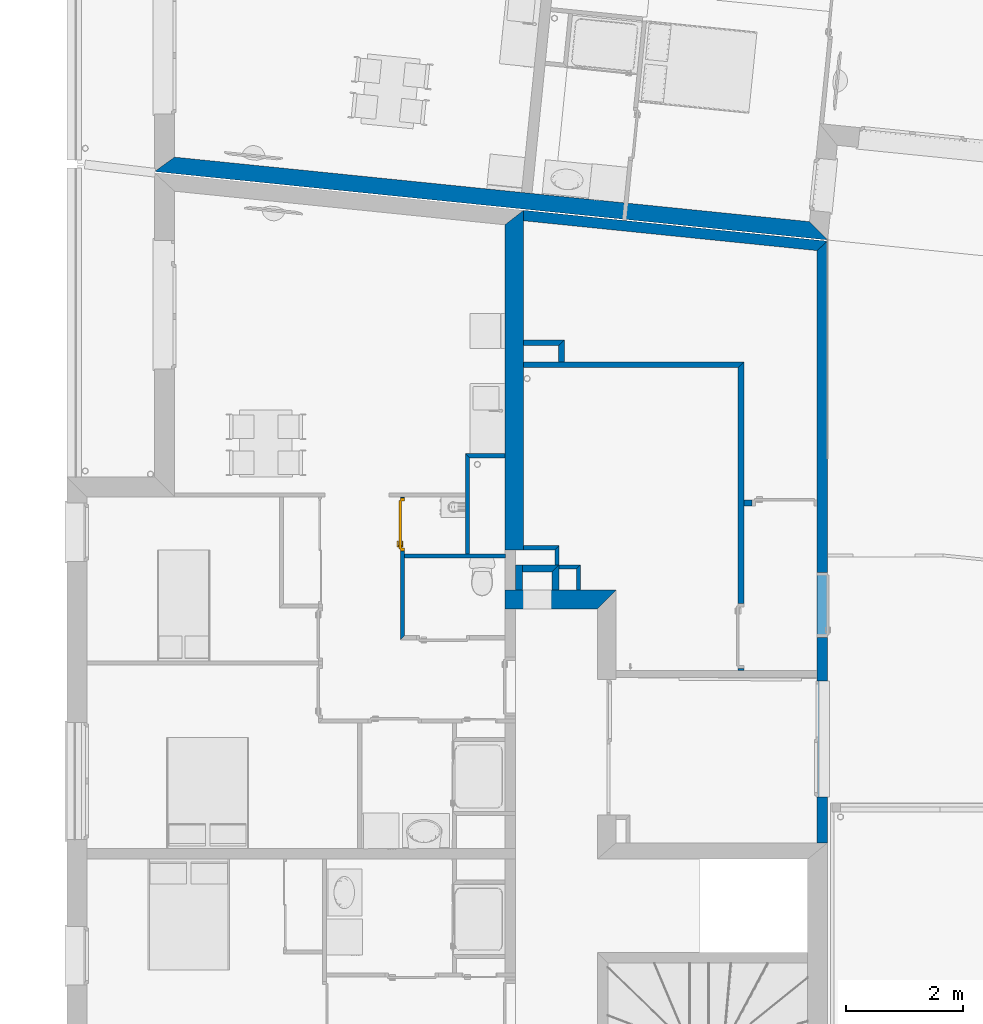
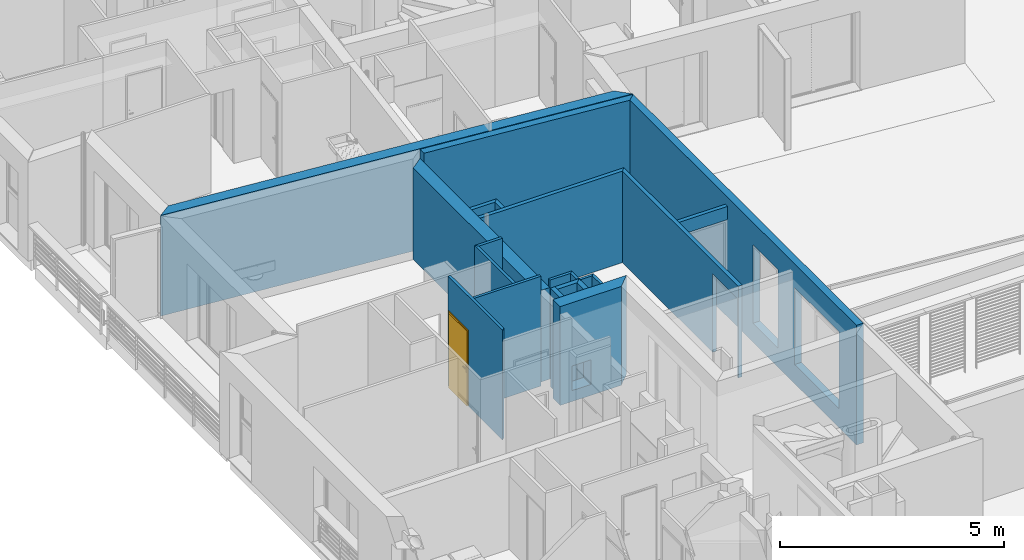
# One storey, part 55 of 171: 21 walls, 1 door, 9 openings.
"""IFC2X3 building model written with IfcOpenShell, lengths in millimetres."""

from ifc_helpers import new_model, entity, si_unit, converted_unit, derived_unit, money_unit, direction, frame, origin_with_axes, origin_2d_with_axis, place, context, subcontext, project, spatial, polyline, rectangle, outline, extrude, faceted_brep, source, transform, mapped, material, layer, layer_set, layer_usage, type_object, element, fill, save


model = new_model("IFC2X3")

# Units and contexts
model_context = context("Model", 3, precision=0.01, world=origin_with_axes(), true_north=direction((0.0, 1.0)))
body_context = subcontext(model_context, "Body", "Model", "MODEL_VIEW")
ifc_project = project(units=[si_unit("LENGTHUNIT", "METRE", prefix="MILLI"), si_unit("AREAUNIT", "SQUARE_METRE"), si_unit("VOLUMEUNIT", "CUBIC_METRE"), converted_unit("PLANEANGLEUNIT", "DEGREE", entity("IfcPlaneAngleMeasure", 0.0174532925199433), si_unit("PLANEANGLEUNIT", "RADIAN"), dimensions=[0, 0, 0, 0, 0, 0, 0]), money_unit("USD"), converted_unit("TIMEUNIT", "Year", entity("IfcTimeMeasure", 31557600.0), si_unit("TIMEUNIT", "SECOND"), dimensions=[0, 0, 1, 0, 0, 0, 0]), si_unit("MASSUNIT", "GRAM", prefix="KILO"), si_unit("THERMODYNAMICTEMPERATUREUNIT", "DEGREE_CELSIUS"), si_unit("LUMINOUSINTENSITYUNIT", "LUMEN"), si_unit("ENERGYUNIT", "JOULE", prefix="MEGA"), derived_unit("THERMALCONDUCTANCEUNIT", [(si_unit("POWERUNIT", "WATT"), 1), (si_unit("LENGTHUNIT", "METRE"), -1), (si_unit("THERMODYNAMICTEMPERATUREUNIT", "KELVIN"), -1)]), derived_unit("SPECIFICHEATCAPACITYUNIT", [(si_unit("ENERGYUNIT", "JOULE"), 1), (si_unit("MASSUNIT", "GRAM", prefix="KILO"), -1), (si_unit("THERMODYNAMICTEMPERATUREUNIT", "KELVIN"), -1)]), derived_unit("MASSDENSITYUNIT", [(si_unit("MASSUNIT", "GRAM", prefix="KILO"), 1), (si_unit("VOLUMEUNIT", "CUBIC_METRE"), -1)])], contexts=[model_context])

# Site, building, storey
site_placement = place(None, origin_with_axes())
site = spatial("IfcSite", under=ifc_project, at=site_placement, Name="Site", CompositionType="ELEMENT")
building_placement = place(site_placement, origin_with_axes())
building = spatial("IfcBuilding", under=site, at=building_placement, Name="Bâtiment", CompositionType="ELEMENT")
storey_placement = place(building_placement, frame((0.0, 0.0, 3000.0), z_axis=(0.0, 0.0, 1.0), x_axis=(1.0, 0.0, 0.0)))
storey = spatial("IfcBuildingStorey", under=building, at=storey_placement, Name="rdc", CompositionType="ELEMENT", Elevation=3000.0)

# Wall
ifc_material_1 = material(Name="Brique 1 268964100")
ifc_layer_1 = layer(ifc_material_1, 100.0, ventilated="UNKNOWN")
ifc_layer_set_1 = layer_set([ifc_layer_1], Name="Cloison 100 gaine")
ifc_layer_usage_1 = layer_usage(ifc_layer_set_1, "AXIS2", "POSITIVE", 0.0)
wall_type_1 = type_object("IfcWallType", Name="Cloison 100 gaine 100", PredefinedType="NOTDEFINED")
wall_1_placement = place(storey_placement, frame((2225048.648795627, -623821.40736128, 0.0), z_axis=(0.0, 0.0, 1.0), x_axis=(0.0, -1.0, 0.0)))
element("IfcWallStandardCase", 1, at=wall_1_placement, inside=storey, type_object=wall_type_1, material=ifc_layer_usage_1, Name="Mur-133", context=body_context, shape_type="SweptSolid", body=[
    extrude(outline(polyline([(0.0, 0.0), (276.7742835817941, 0.0), (276.7742835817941, 100.0000000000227), (-100.0000000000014, 100.0000000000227), (0.0, 0.0)])), origin_with_axes(), (0.0, 0.0, 1.0), 2500.0),
])

# Wall, opening
ifc_layer_usage_2 = layer_usage(ifc_layer_set_1, "AXIS2", "POSITIVE", 0.0)
wall_2_placement = place(storey_placement, frame((2228223.476037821, -629505.4724459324, 0.0), z_axis=(0.0, 0.0, 1.0), x_axis=(0.0, 1.0, 0.0)))
wall_2 = element("IfcWallStandardCase", 2, at=wall_2_placement, inside=storey, type_object=wall_type_1, material=ifc_layer_usage_2, Name="Mur-133", context=body_context, shape_type="SweptSolid", body=[
    extrude(outline(polyline([(119.9999999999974, 0.0), (5407.290801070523, 0.0), (5307.290801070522, 100.0000000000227), (119.9999999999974, 100.0000000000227), (119.9999999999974, 0.0)])), origin_with_axes(), (0.0, 0.0, 1.0), 2500.0),
])
opening_1_placement = place(wall_2_placement, frame((711.860139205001, 2.273736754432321e-10, 0.0), z_axis=(0.0, 0.0, 1.0), x_axis=(1.0, 0.0, 0.0)))
element("IfcOpeningElement", 3, at=opening_1_placement, cuts=wall_2, Name="Por-301", context=body_context, shape_type="SweptSolid", body=[
    extrude(rectangle(XDim=1109.999997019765, YDim=2140.0, at=origin_2d_with_axis()), frame((1.490114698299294e-06, -100.0000000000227, 1070.0), z_axis=(0.0, -1.0, 0.0), x_axis=(-1.0, 0.0, 0.0)), (0.0, 0.0, -1.0), 200.0),
])

# Wall
ifc_layer_usage_3 = layer_usage(ifc_layer_set_1, "AXIS2", "POSITIVE", 0.0)
wall_3_placement = place(storey_placement, frame((2224132.342054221, -624198.1816448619, 0.0), z_axis=(0.0, 0.0, 1.0), x_axis=(1.0, 0.0, 0.0)))
element("IfcWallStandardCase", 4, at=wall_3_placement, inside=storey, type_object=wall_type_1, material=ifc_layer_usage_3, Name="Mur-133", context=body_context, shape_type="SweptSolid", body=[
    extrude(outline(polyline([(319.9913600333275, 0.0), (3991.133983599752, 0.0), (4091.133983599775, 100.0000000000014), (319.990804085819, 100.0000000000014), (319.9913600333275, 0.0)])), origin_with_axes(), (0.0, 0.0, 1.0), 2500.0),
])

# Wall, opening
ifc_layer_usage_4 = layer_usage(ifc_layer_set_1, "AXIS2", "POSITIVE", 0.0)
wall_4_placement = place(storey_placement, frame((2228223.476037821, -626562.99755707, 0.0), z_axis=(0.0, 0.0, 1.0), x_axis=(1.0, 0.0, 0.0)))
wall_4 = element("IfcWallStandardCase", 5, at=wall_4_placement, inside=storey, type_object=wall_type_1, material=ifc_layer_usage_4, Name="Mur-133", context=body_context, shape_type="SweptSolid", body=[
    extrude(outline(polyline([(0.0, 0.0), (1250.000000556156, 0.0), (1250.00000057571, 100.0000000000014), (0.0, 100.0000000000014), (0.0, 0.0)])), origin_with_axes(), (0.0, 0.0, 1.0), 2500.0),
])
opening_2_placement = place(wall_4_placement, frame((695.0000004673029, 0.0, 0.0), z_axis=(0.0, 0.0, 1.0), x_axis=(1.0, 0.0, 0.0)))
element("IfcOpeningElement", 6, at=opening_2_placement, cuts=wall_4, Name="Por-301", context=body_context, shape_type="SweptSolid", body=[
    extrude(rectangle(XDim=1109.999997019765, YDim=2140.0, at=origin_2d_with_axis()), frame((-1.490093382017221e-06, -100.0000000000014, 1070.0), z_axis=(0.0, 1.0, 0.0), x_axis=(1.0, 0.0, 0.0)), (0.0, 0.0, 1.0), 200.0),
])

# Wall, openings
ifc_layer_usage_5 = layer_usage(ifc_layer_set_1, "AXIS2", "POSITIVE", 0.0)
wall_5_placement = place(storey_placement, frame((2224132.331319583, -623821.40736128, 0.0), z_axis=(0.0, 0.0, 1.0), x_axis=(1.0, 0.0, 0.0)))
wall_5 = element("IfcWallStandardCase", 7, at=wall_5_placement, inside=storey, type_object=wall_type_1, material=ifc_layer_usage_5, Name="Mur-133", context=body_context, shape_type="SweptSolid", body=[
    extrude(outline(polyline([(320.0000000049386, 0.0), (916.3174760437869, 0.0), (1016.31747604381, 100.0000000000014), (319.9994440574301, 100.0000000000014), (320.0000000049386, 0.0)])), origin_with_axes(), (0.0, 0.0, 1.0), 2500.0),
])
opening_3_placement = place(wall_5_placement, frame((644.7914985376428, 0.0, 200.0000000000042), z_axis=(0.0, 0.0, 1.0), x_axis=(1.0, 0.0, 0.0)))
element("IfcOpeningElement", 8, at=opening_3_placement, cuts=wall_5, Name="Fen-212", context=body_context, shape_type="SweptSolid", body=[
    extrude(rectangle(XDim=210.0000000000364, YDim=210.0, at=origin_2d_with_axis()), frame((0.0, -189.9999999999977, 105.0), z_axis=(0.0, -1.0, 0.0), x_axis=(1.0, 0.0, 0.0)), (0.0, 0.0, -1.0), 390.0),
    extrude(rectangle(XDim=210.0000000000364, YDim=210.0, at=origin_2d_with_axis()), frame((0.0, -189.9999999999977, 105.0), z_axis=(0.0, 1.0, 0.0), x_axis=(1.0, 0.0, 0.0)), (0.0, 0.0, -1.0), 390.0),
])
opening_4_placement = place(wall_5_placement, frame((644.7914985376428, 0.0, 200.0000000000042), z_axis=(0.0, 0.0, 1.0), x_axis=(1.0, 0.0, 0.0)))
element("IfcOpeningElement", 9, at=opening_4_placement, cuts=wall_5, Name="Fen-213", context=body_context, shape_type="SweptSolid", body=[
    extrude(rectangle(XDim=210.0000000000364, YDim=210.0, at=origin_2d_with_axis()), frame((0.0, 289.9999999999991, 105.0), z_axis=(0.0, 1.0, 0.0), x_axis=(1.0, 0.0, 0.0)), (0.0, 0.0, -1.0), 390.0),
    extrude(rectangle(XDim=210.0000000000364, YDim=210.0, at=origin_2d_with_axis()), frame((0.0, 289.9999999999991, 105.0), z_axis=(0.0, -1.0, 0.0), x_axis=(1.0, 0.0, 0.0)), (0.0, 0.0, -1.0), 390.0),
])
opening_5_placement = place(wall_5_placement, frame((644.7914985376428, 0.0, 200.0000000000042), z_axis=(0.0, 0.0, 1.0), x_axis=(1.0, 0.0, 0.0)))
element("IfcOpeningElement", 10, at=opening_5_placement, cuts=wall_5, Name="Fen-214", context=body_context, shape_type="SweptSolid", body=[
    extrude(rectangle(XDim=210.0000000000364, YDim=210.0, at=origin_2d_with_axis()), frame((0.0, 289.9999999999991, 105.0), z_axis=(0.0, 1.0, 0.0), x_axis=(1.0, 0.0, 0.0)), (0.0, 0.0, -1.0), 390.0),
    extrude(rectangle(XDim=210.0000000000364, YDim=210.0, at=origin_2d_with_axis()), frame((0.0, 289.9999999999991, 105.0), z_axis=(0.0, -1.0, 0.0), x_axis=(1.0, 0.0, 0.0)), (0.0, 0.0, -1.0), 390.0),
])

# Wall, opening, door
ifc_material_2 = material(Name="Hachure solide 268963992")
ifc_layer_2 = layer(ifc_material_2, 70.0, ventilated="UNKNOWN")
ifc_layer_set_2 = layer_set([ifc_layer_2], Name="Cloison 70 0826278243")
ifc_layer_usage_6 = layer_usage(ifc_layer_set_2, "AXIS2", "NEGATIVE", 70.0)
wall_type_2 = type_object("IfcWallType", Name="Cloison 70 0826278243 70", PredefinedType="NOTDEFINED")
wall_6_placement = place(storey_placement, frame((2222342.320325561, -626341.213752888, 0.0), z_axis=(0.0, 0.0, 1.0), x_axis=(-7.302674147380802e-07, -0.9999999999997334, 0.0)))
wall_6 = element("IfcWallStandardCase", 11, at=wall_6_placement, inside=storey, type_object=wall_type_2, material=ifc_layer_usage_6, Name="Mur-149", context=body_context, shape_type="SweptSolid", body=[
    extrude(outline(polyline([(69.99996958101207, 0.0), (2516.822249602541, 0.0), (2446.822198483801, 69.99999999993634), (69.99990594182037, 70.00000000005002), (69.99996958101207, 0.0)])), origin_with_axes(), (0.0, 0.0, 1.0), 3000.0),
])
opening_6_placement = place(wall_6_placement, frame((543.3214363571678, 3.410605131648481e-10, 0.0), z_axis=(0.0, 0.0, 1.0), x_axis=(1.0, 0.0, 0.0)))
opening_6 = element("IfcOpeningElement", 12, at=opening_6_placement, cuts=wall_6, Name="Por-278", context=body_context, shape_type="SweptSolid", body=[
    extrude(rectangle(XDim=910.0, YDim=2080.0, at=origin_2d_with_axis()), frame((0.0, 69.99999999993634, 1040.0), z_axis=(0.0, -1.0, 0.0), x_axis=(-1.0, 0.0, 0.0)), (0.0, 0.0, 1.0), 140.0),
])
door_style = type_object("IfcDoorStyle", Name="Porte_1v", ConstructionType="NOTDEFINED", OperationType="NOTDEFINED", ParameterTakesPrecedence=False, Sizeable=False)
shared_shape = source(origin_with_axes(), body_context, "Body", "Brep", [
    faceted_brep([(454.9999999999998, 0.0, 0.0), (414.9999999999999, 0.0, 0.0), (414.9999999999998, 0.0, 2040.0), (-414.9999999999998, 0.0, 2040.0), (-414.9999999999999, 0.0, 0.0), (-454.9999999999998, 0.0, 0.0), (-454.9999999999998, 0.0, 2080.0), (454.9999999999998, 0.0, 2080.0), (454.9999999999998, -69.99999999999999, 0.0), (399.9999999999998, -69.99999999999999, 0.0), (399.9999999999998, -15.0, 0.0), (414.9999999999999, -15.0, 0.0), (414.9999999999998, -15.0, 2040.0), (-414.9999999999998, -15.0, 2040.0), (-414.9999999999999, -15.0, 0.0), (-399.9999999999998, -15.0, 0.0), (-399.9999999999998, -69.99999999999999, 0.0), (-454.9999999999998, -69.99999999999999, 0.0), (-454.9999999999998, -69.99999999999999, 2080.0), (454.9999999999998, -69.99999999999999, 2080.0), (-399.9999999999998, -69.99999999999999, 2025.0), (399.9999999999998, -69.99999999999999, 2025.0), (399.9999999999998, -15.0, 2025.0), (-399.9999999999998, -15.0, 2025.0)], [[[0, 1, 2, 3, 4, 5, 6, 7]], [[0, 8, 9, 10, 11, 1]], [[1, 11, 12, 2]], [[2, 12, 13, 3]], [[3, 13, 14, 4]], [[5, 4, 14, 15, 16, 17]], [[18, 6, 5, 17]], [[19, 7, 6, 18]], [[8, 0, 7, 19]], [[9, 8, 19, 18, 17, 16, 20, 21]], [[10, 9, 21, 22]], [[11, 10, 22, 23, 15, 14, 13, 12]], [[23, 20, 16, 15]], [[22, 21, 20, 23]]]),
    faceted_brep([(-349.9999999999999, -15.0, 900.0), (-389.9999999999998, -15.0, 900.0), (-389.9999999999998, -15.0, 1100.0), (-349.9999999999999, -15.0, 1100.0), (-349.9999999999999, -24.99999999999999, 900.0), (-389.9999999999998, -24.99999999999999, 900.0), (-389.9999999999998, -24.99999999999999, 1100.0), (-349.9999999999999, -24.99999999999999, 1100.0)], [[[0, 1, 2, 3]], [[1, 0, 4, 5]], [[2, 1, 5, 6]], [[3, 2, 6, 7]], [[0, 3, 7, 4]], [[5, 4, 7, 6]]]),
    faceted_brep([(-279.9999999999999, -24.99999999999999, 1000.0), (-379.9999999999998, -24.99999999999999, 1000.0), (-379.9999999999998, -24.99999999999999, 1020.0), (-279.9999999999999, -24.99999999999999, 1020.0), (-279.9999999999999, -44.99999999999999, 1000.0), (-379.9999999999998, -44.99999999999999, 1000.0), (-379.9999999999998, -44.99999999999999, 1020.0), (-279.9999999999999, -44.99999999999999, 1020.0)], [[[0, 1, 2, 3]], [[1, 0, 4, 5]], [[2, 1, 5, 6]], [[3, 2, 6, 7]], [[0, 3, 7, 4]], [[5, 4, 7, 6]]]),
    faceted_brep([(-349.9999999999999, 34.99999999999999, 900.0), (-389.9999999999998, 34.99999999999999, 900.0), (-389.9999999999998, 34.99999999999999, 1100.0), (-349.9999999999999, 34.99999999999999, 1100.0), (-349.9999999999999, 24.99999999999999, 900.0), (-389.9999999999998, 24.99999999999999, 900.0), (-389.9999999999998, 24.99999999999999, 1100.0), (-349.9999999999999, 24.99999999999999, 1100.0)], [[[0, 1, 2, 3]], [[1, 0, 4, 5]], [[2, 1, 5, 6]], [[3, 2, 6, 7]], [[0, 3, 7, 4]], [[5, 4, 7, 6]]]),
    faceted_brep([(-279.9999999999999, 54.99999999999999, 1000.0), (-379.9999999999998, 54.99999999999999, 1000.0), (-379.9999999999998, 54.99999999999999, 1020.0), (-279.9999999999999, 54.99999999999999, 1020.0), (-279.9999999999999, 34.99999999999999, 1000.0), (-379.9999999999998, 34.99999999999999, 1000.0), (-379.9999999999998, 34.99999999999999, 1020.0), (-279.9999999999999, 34.99999999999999, 1020.0)], [[[0, 1, 2, 3]], [[1, 0, 4, 5]], [[2, 1, 5, 6]], [[3, 2, 6, 7]], [[0, 3, 7, 4]], [[5, 4, 7, 6]]]),
    faceted_brep([(-414.9999999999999, 24.99999999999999, 0.0), (414.9999999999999, 24.99999999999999, 0.0), (414.9999999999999, -15.0, 0.0), (-414.9999999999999, -15.0, 0.0), (-414.9999999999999, 24.99999999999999, 2040.0), (414.9999999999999, 24.99999999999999, 2040.0), (414.9999999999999, -15.0, 2040.0), (-414.9999999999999, -15.0, 2040.0)], [[[0, 1, 2, 3]], [[0, 4, 5, 1]], [[1, 5, 6, 2]], [[3, 2, 6, 7]], [[4, 0, 3, 7]], [[5, 4, 7, 6]]]),
])
door_placement = place(opening_6_placement, frame((414.9999999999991, 0.0, 0.0), z_axis=(0.0, 0.0, 1.0), x_axis=(-1.0, 0.0, 0.0)))
door = element("IfcDoor", 13, at=door_placement, inside=storey, type_object=door_style, Name="Por-278", OverallHeight=2040.0, OverallWidth=830.0, context=body_context, shape_type="MappedRepresentation", body=[
    mapped(shared_shape, transform((414.9999999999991, -1.13686837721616e-10, 0.0))),
])
fill(opening_6, door)

# Walls
ifc_layer_usage_7 = layer_usage(ifc_layer_set_2, "AXIS2", "POSITIVE", 0.0)
wall_7_placement = place(storey_placement, frame((2224132.341603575, -625671.2209312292, 0.0), z_axis=(0.0, 0.0, 1.0), x_axis=(-0.9999999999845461, -5.55947921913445e-06, 0.0)))
element("IfcWallStandardCase", 14, at=wall_7_placement, inside=storey, type_object=wall_type_2, material=ifc_layer_usage_7, Name="Mur-149", context=body_context, shape_type="SweptSolid", body=[
    extrude(outline(polyline([(2.273736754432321e-10, 0.0), (675.8614351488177, 0.0), (605.8618243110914, 70.00000000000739), (4.547473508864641e-10, 70.00000000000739), (2.273736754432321e-10, 0.0)])), origin_with_axes(), (0.0, 0.0, 1.0), 3000.0),
])
ifc_layer_usage_8 = layer_usage(ifc_layer_set_2, "AXIS2", "POSITIVE", -70.0)
wall_8_placement = place(storey_placement, frame((2224138.501881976, -627455.7959423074, 0.0), z_axis=(0.0, 0.0, 1.0), x_axis=(-0.9999999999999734, -2.308105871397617e-07, 0.0)))
element("IfcWallStandardCase", 15, at=wall_8_placement, inside=storey, type_object=wall_type_2, material=ifc_layer_usage_8, Name="Mur-149", context=body_context, shape_type="SweptSolid", body=[
    extrude(outline(polyline([(0.0, -70.00000000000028), (1726.182303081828, -70.00000000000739), (1726.182370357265, 0.0), (0.0, 0.0), (0.0, -70.00000000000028)])), origin_with_axes(), (0.0, 0.0, 1.0), 3000.0),
])
ifc_layer_usage_9 = layer_usage(ifc_layer_set_2, "AXIS2", "NEGATIVE", 0.0)
wall_9_placement = place(storey_placement, frame((2223456.480168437, -627455.7960997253, 0.0), z_axis=(0.0, 0.0, 1.0), x_axis=(0.0, 1.0, 0.0)))
element("IfcWallStandardCase", 16, at=wall_9_placement, inside=storey, type_object=wall_type_2, material=ifc_layer_usage_9, Name="Mur-149", context=body_context, shape_type="SweptSolid", body=[
    extrude(outline(polyline([(70.00001615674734, -70.00000000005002), (1714.571800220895, -70.00000000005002), (1784.57141105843, 0.0), (70.00000000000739, 0.0), (70.00001615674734, -70.00000000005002)])), origin_with_axes(), (0.0, 0.0, 1.0), 3000.0),
])
ifc_layer_usage_10 = layer_usage(ifc_layer_set_2, "AXIS2", "NEGATIVE", 70.0)
wall_10_placement = place(storey_placement, frame((2225055.050354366, -627247.3597870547, 0.0), z_axis=(0.0, 0.0, 1.0), x_axis=(-1.0, 0.0, 0.0)))
element("IfcWallStandardCase", 17, at=wall_10_placement, inside=storey, type_object=wall_type_2, material=ifc_layer_usage_10, Name="Mur-149", context=body_context, shape_type="SweptSolid", body=[
    extrude(outline(polyline([(1.13686837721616e-10, 0.0), (602.6999882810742, 0.0), (602.6995991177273, 70.00000000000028), (70.05386432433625, 70.00000000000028), (1.13686837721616e-10, 0.0)])), origin_with_axes(), (0.0, 0.0, 1.0), 2700.0),
])
ifc_layer_usage_11 = layer_usage(ifc_layer_set_2, "AXIS2", "NEGATIVE", 70.0)
wall_11_placement = place(storey_placement, frame((2225054.796152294, -627577.8380544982, 0.0), z_axis=(0.0, 0.0, 1.0), x_axis=(0.0007691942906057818, 0.9999997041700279, 0.0)))
element("IfcWallStandardCase", 18, at=wall_11_placement, inside=storey, type_object=wall_type_2, material=ifc_layer_usage_11, Name="Mur-149", context=body_context, shape_type="SweptSolid", body=[
    extrude(outline(polyline([(0.0, 0.0), (330.478365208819, 0.0), (260.4245008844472, 70.00000000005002), (-0.001883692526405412, 70.00000000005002), (0.0, 0.0)])), origin_with_axes(), (0.0, 0.0, 1.0), 2700.0),
])
ifc_layer_usage_12 = layer_usage(ifc_layer_set_2, "AXIS2", "NEGATIVE", 70.0)
wall_12_placement = place(storey_placement, frame((2225425.165197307, -627574.5690162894, 0.0), z_axis=(0.0, 0.0, 1.0), x_axis=(-0.999961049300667, -0.008826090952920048, 0.0)))
element("IfcWallStandardCase", 19, at=wall_12_placement, inside=storey, type_object=wall_type_2, material=ifc_layer_usage_12, Name="Mur-149", context=body_context, shape_type="SweptSolid", body=[
    extrude(outline(polyline([(1.13686837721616e-10, 0.0), (370.383471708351, 0.0), (371.001322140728, 69.99999999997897), (70.00000000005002, 69.99999999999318), (1.13686837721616e-10, 0.0)])), origin_with_axes(), (0.0, 0.0, 1.0), 2700.0),
])
ifc_layer_usage_13 = layer_usage(ifc_layer_set_2, "AXIS2", "NEGATIVE", 70.0)
wall_13_placement = place(storey_placement, frame((2225431.8105155, -628327.4571735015, 0.0), z_axis=(0.0, 0.0, 1.0), x_axis=(-0.008826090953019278, 0.9999610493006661, 0.0)))
element("IfcWallStandardCase", 20, at=wall_13_placement, inside=storey, type_object=wall_type_2, material=ifc_layer_usage_13, Name="Mur-149", context=body_context, shape_type="SweptSolid", body=[
    extrude(outline(polyline([(320.0124647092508, 1.13686837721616e-10), (752.9174838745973, 0.0), (682.9174838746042, 70.00000000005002), (320.6303151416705, 69.99999999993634), (320.0124647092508, 1.13686837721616e-10)])), origin_with_axes(), (0.0, 0.0, 1.0), 2700.0),
])

# Wall, opening
ifc_material_3 = material(Name="Parpaing 312445824")
ifc_layer_3 = layer(ifc_material_3, 180.0, ventilated="UNKNOWN")
ifc_material_4 = material(Name="Isolant styromousse 301821074")
ifc_layer_4 = layer(ifc_material_4, 140.0, ventilated="UNKNOWN")
ifc_layer_set_3 = layer_set([ifc_layer_3, ifc_layer_4], Name="isol int 18+14")
ifc_layer_usage_14 = layer_usage(ifc_layer_set_3, "AXIS2", "POSITIVE", 0.0)
wall_type_3 = type_object("IfcWallType", Name="isol int 18+14 320", PredefinedType="NOTDEFINED")
wall_14_placement = place(storey_placement, frame((2224132.356370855, -628327.4571735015, 0.0), z_axis=(0.0, 0.0, 1.0), x_axis=(1.0, 0.0, 0.0)))
wall_14 = element("IfcWallStandardCase", 21, at=wall_14_placement, inside=storey, type_object=wall_type_3, material=ifc_layer_usage_14, Name="Mur-142", context=body_context, shape_type="SweptSolid", body=[
    extrude(outline(polyline([(0.0, 0.0), (1579.961985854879, 0.0), (1899.961985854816, 320.0000000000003), (0.0, 320.0000000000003), (0.0, 0.0)])), origin_with_axes(), (0.0, 0.0, 1.0), 2700.0),
])
opening_7_placement = place(wall_14_placement, frame((549.3943914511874, 0.0, 299.9999999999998), z_axis=(0.0, 0.0, 1.0), x_axis=(1.0, 0.0, 0.0)))
element("IfcOpeningElement", 22, at=opening_7_placement, cuts=wall_14, Name="Por-242", context=body_context, shape_type="SweptSolid", body=[
    extrude(rectangle(XDim=489.9999985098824, YDim=669.9999999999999, at=origin_2d_with_axis()), frame((7.451035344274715e-07, 320.0000000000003, 334.9999999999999), z_axis=(0.0, -1.0, 0.0), x_axis=(-1.0, 0.0, 0.0)), (0.0, 0.0, 1.0), 640.0),
])

# Walls
ifc_layer_usage_15 = layer_usage(ifc_layer_set_3, "AXIS2", "POSITIVE", 0.0)
wall_15_placement = place(storey_placement, frame((2224132.318255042, -621471.4479790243, 0.0), z_axis=(0.0, 0.0, 1.0), x_axis=(5.559475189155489e-06, -0.9999999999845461, 0.0)))
element("IfcWallStandardCase", 23, at=wall_15_placement, inside=storey, type_object=wall_type_3, material=ifc_layer_usage_15, Name="Mur-143", context=body_context, shape_type="SweptSolid", body=[
    extrude(outline(polyline([(281.4422849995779, 0.0), (5845.911808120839, 0.0), (5845.911808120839, 320.00000000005), (32.52146113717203, 319.9999999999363), (281.4422849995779, 0.0)])), origin_with_axes(), (0.0, 0.0, 1.0), 2500.0),
])
ifc_layer_5 = layer(ifc_material_3, 180.0, ventilated="UNKNOWN")
ifc_layer_6 = layer(ifc_material_4, 100.0, ventilated="UNKNOWN")
ifc_layer_set_4 = layer_set([ifc_layer_5, ifc_layer_6], Name="isol int 18+10 0018356637")
ifc_layer_usage_16 = layer_usage(ifc_layer_set_4, "AXIS2", "POSITIVE", 0.0)
wall_type_4 = type_object("IfcWallType", Name="isol int 18+10 0018356637 280", PredefinedType="NOTDEFINED")
wall_16_placement = place(storey_placement, frame((2218134.233344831, -620841.7958940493, 0.0), z_axis=(0.0, 0.0, 1.0), x_axis=(0.9948759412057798, -0.101103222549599, 0.0)))
element("IfcWallStandardCase", 24, at=wall_16_placement, inside=storey, type_object=wall_type_4, material=ifc_layer_usage_16, Name="Mur-145", context=body_context, shape_type="SweptSolid", body=[
    extrude(outline(polyline([(0.0, 0.0), (11580.60445642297, 0.0), (11240.60445628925, 280.0000000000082), (313.2964471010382, 280.0000000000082), (0.0, 0.0)])), origin_with_axes(), (0.0, 0.0, 1.0), 2750.0),
])
ifc_material_5 = material(Name="AS_EMPTY 272048125")
ifc_layer_7 = layer(ifc_material_5, 20.0, ventilated="UNKNOWN")
ifc_material_6 = material(Name="Isolant styromousse 275581351")
ifc_layer_8 = layer(ifc_material_6, 80.0, ventilated="UNKNOWN")
ifc_layer_9 = layer(ifc_material_5, 20.0, ventilated="UNKNOWN")
ifc_layer_set_5 = layer_set([ifc_layer_7, ifc_layer_8, ifc_layer_9], Name="SAA 120")
ifc_layer_usage_17 = layer_usage(ifc_layer_set_5, "AXIS2", "NEGATIVE", 0.0)
wall_type_5 = type_object("IfcWallType", Name="SAA 120 120", PredefinedType="NOTDEFINED")
wall_17_placement = place(storey_placement, frame((2224432.318356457, -627577.3759988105, 0.0), z_axis=(0.0, 0.0, 1.0), x_axis=(0.999999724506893, -0.000742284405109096, 0.0)))
element("IfcWallStandardCase", 25, at=wall_17_placement, inside=storey, type_object=wall_type_5, material=ifc_layer_usage_17, Name="Mur-156", context=body_context, shape_type="SweptSolid", body=[
    extrude(outline(polyline([(1.13686837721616e-10, -119.9999999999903), (502.567008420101, -119.9999999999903), (622.4779673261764, 0.0), (0.0, 0.0), (1.13686837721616e-10, -119.9999999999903)])), origin_with_axes(), (0.0, 0.0, 1.0), 2690.0),
])
ifc_layer_usage_18 = layer_usage(ifc_layer_set_5, "AXIS2", "NEGATIVE", 0.0)
wall_18_placement = place(storey_placement, frame((2225054.796152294, -627577.8380544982, 0.0), z_axis=(0.0, 0.0, 1.0), x_axis=(0.0, -1.0, 0.0)))
element("IfcWallStandardCase", 26, at=wall_18_placement, inside=storey, type_object=wall_type_5, material=ifc_layer_usage_18, Name="Mur-156", context=body_context, shape_type="SweptSolid", body=[
    extrude(outline(polyline([(119.9109589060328, -120.0000000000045), (429.6191190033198, -120.0000000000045), (429.6191190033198, 0.0), (0.0, 0.0), (119.9109589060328, -120.0000000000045)])), origin_with_axes(), (0.0, 0.0, 1.0), 2690.0),
])
ifc_layer_usage_19 = layer_usage(ifc_layer_set_5, "AXIS2", "POSITIVE", 0.0)
wall_19_placement = place(storey_placement, frame((2224312.31835671, -627577.3837901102, 0.0), z_axis=(0.0, 0.0, 1.0), x_axis=(6.49274977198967e-05, -0.9999999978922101, 0.0)))
element("IfcWallStandardCase", 27, at=wall_19_placement, inside=storey, type_object=wall_type_5, material=ifc_layer_usage_19, Name="Mur-156", context=body_context, shape_type="SweptSolid", body=[
    extrude(outline(polyline([(0.0, 0.0), (430.073384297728, 1.13686837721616e-10), (430.0811755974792, 120.0000000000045), (0.0, 119.9999999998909), (0.0, 0.0)])), origin_with_axes(), (0.0, 0.0, 1.0), 2690.0),
])
ifc_layer_10 = layer(ifc_material_3, 180.0, ventilated="UNKNOWN")
ifc_layer_set_6 = layer_set([ifc_layer_10], Name="Beton  18 0836643197")
ifc_layer_usage_20 = layer_usage(ifc_layer_set_6, "AXIS2", "POSITIVE", 0.0)
wall_type_6 = type_object("IfcWallType", Name="Beton  18 0836643197 180", PredefinedType="NOTDEFINED")
wall_20_placement = place(storey_placement, frame((2229653.476039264, -622032.5298369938, 0.0), z_axis=(0.0, 0.0, 1.0), x_axis=(-0.9948759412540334, 0.101103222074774, 0.0)))
element("IfcWallStandardCase", 28, at=wall_20_placement, inside=storey, type_object=wall_type_6, material=ifc_layer_usage_20, Name="Mur-145", context=body_context, shape_type="SweptSolid", body=[
    extrude(outline(polyline([(0.0, 0.0), (5227.94590536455, 0.0), (5209.652583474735, 180.0000000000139), (162.6347701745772, 180.0000000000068), (0.0, 0.0)])), origin_with_axes(), (0.0, 0.0, 1.0), 2750.0),
])

# Wall, openings
ifc_layer_usage_21 = layer_usage(ifc_layer_set_6, "AXIS2", "POSITIVE", 0.0)
wall_21_placement = place(storey_placement, frame((2229653.476037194, -632613.5146792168, -520.0), z_axis=(0.0, 0.0, 1.0), x_axis=(1.956349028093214e-10, 1.0, 0.0)))
wall_21 = element("IfcWallStandardCase", 29, at=wall_21_placement, inside=storey, type_object=wall_type_6, material=ifc_layer_usage_21, Name="Mur-144", context=body_context, shape_type="SweptSolid", body=[
    extrude(outline(polyline([(280.0000000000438, -1.13686837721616e-10), (10580.98484222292, 0.0), (10418.35007204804, 179.99999999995), (279.9999999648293, 179.9999999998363), (280.0000000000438, -1.13686837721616e-10)])), origin_with_axes(), (0.0, 0.0, 1.0), 3270.0),
])
opening_8_placement = place(wall_21_placement, frame((2058.289965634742, 1.13686837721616e-10, 520.0000000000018), z_axis=(0.0, 0.0, 1.0), x_axis=(1.0, 0.0, 0.0)))
element("IfcOpeningElement", 30, at=opening_8_placement, cuts=wall_21, Name="Fen-155", context=body_context, shape_type="SweptSolid", body=[
    extrude(rectangle(XDim=1984.662541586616, YDim=2100.0, at=origin_2d_with_axis()), frame((-2.934541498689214e-08, 150.000000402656, 1050.0), z_axis=(-1.956348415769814e-10, 1.0, 0.0), x_axis=(1.0, 1.956348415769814e-10, 0.0)), (0.0, 0.0, -1.0), 329.9999999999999),
    extrude(rectangle(XDim=1984.662541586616, YDim=2100.0, at=origin_2d_with_axis()), frame((-2.934541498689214e-08, 150.0000004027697, 1050.0), z_axis=(1.956348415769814e-10, -1.0, 0.0), x_axis=(1.0, 1.956348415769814e-10, 0.0)), (0.0, 0.0, -1.0), 210.0),
])
opening_9_placement = place(wall_21_placement, frame((4352.824355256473, 1.13686837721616e-10, 520.0000000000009), z_axis=(0.0, 0.0, 1.0), x_axis=(1.0, 0.0, 0.0)))
element("IfcOpeningElement", 31, at=opening_9_placement, cuts=wall_21, Name="Por-301", context=body_context, shape_type="SweptSolid", body=[
    extrude(rectangle(XDim=1109.999997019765, YDim=2140.0, at=origin_2d_with_axis()), frame((-1.525329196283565e-06, 179.99999999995, 1070.0), z_axis=(-1.956347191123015e-10, 1.0, 0.0), x_axis=(1.0, 1.956347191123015e-10, 0.0)), (0.0, 0.0, -1.0), 360.0),
])

save(model, "model.ifc")
